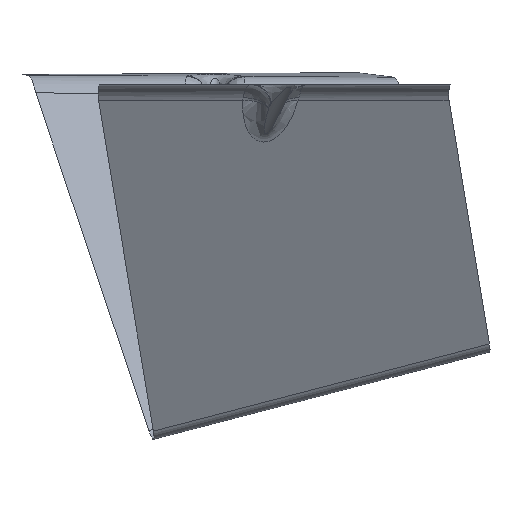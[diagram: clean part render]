
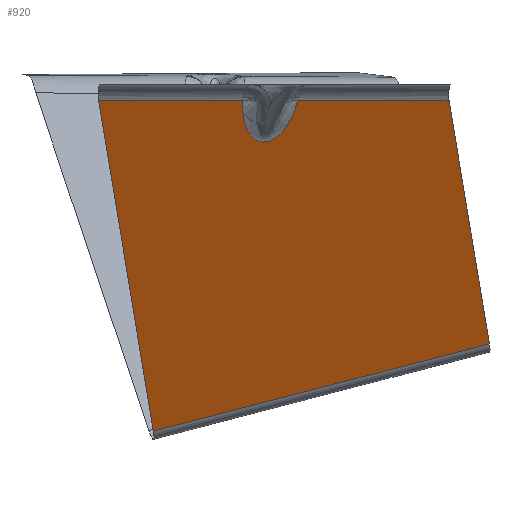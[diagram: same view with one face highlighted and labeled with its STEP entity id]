
A CAD part, left-side view. The second image highlights one B-rep face of the part: STEP entity #920.
In plain terms, the highlighted planar face has unit normal (-0.83, -0.249, -0.5).
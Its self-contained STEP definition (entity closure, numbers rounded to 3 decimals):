
#415=CARTESIAN_POINT('Vertex',(-106.828,9.262,-0.3)) ;
#678=CARTESIAN_POINT('Control Point',(-102.089,-6.537,-0.3)) ;
#679=CARTESIAN_POINT('Control Point',(-101.853,-6.413,-0.752)) ;
#680=CARTESIAN_POINT('Control Point',(-101.621,-6.28,-1.203)) ;
#681=CARTESIAN_POINT('Control Point',(-101.393,-6.136,-1.654)) ;
#682=CARTESIAN_POINT('Control Point',(-100.745,-5.691,-2.95)) ;
#683=CARTESIAN_POINT('Control Point',(-100.131,-5.154,-4.237)) ;
#684=CARTESIAN_POINT('Control Point',(-99.747,-4.761,-5.069)) ;
#685=CARTESIAN_POINT('Control Point',(-99.224,-4.131,-6.249)) ;
#686=CARTESIAN_POINT('Control Point',(-98.755,-3.381,-7.402)) ;
#687=CARTESIAN_POINT('Control Point',(-98.619,-3.143,-7.746)) ;
#688=CARTESIAN_POINT('Control Point',(-98.378,-2.68,-8.376)) ;
#689=CARTESIAN_POINT('Control Point',(-98.162,-2.167,-8.989)) ;
#690=CARTESIAN_POINT('Control Point',(-98.069,-1.919,-9.268)) ;
#691=CARTESIAN_POINT('Control Point',(-97.853,-1.269,-9.949)) ;
#692=CARTESIAN_POINT('Control Point',(-97.691,-0.528,-10.587)) ;
#693=CARTESIAN_POINT('Control Point',(-97.617,-0.045,-10.949)) ;
#694=CARTESIAN_POINT('Control Point',(-97.556,0.775,-11.46)) ;
#695=CARTESIAN_POINT('Control Point',(-97.617,1.718,-11.828)) ;
#696=CARTESIAN_POINT('Control Point',(-97.656,2.067,-11.936)) ;
#697=CARTESIAN_POINT('Control Point',(-97.755,2.643,-12.058)) ;
#698=CARTESIAN_POINT('Control Point',(-97.91,3.225,-12.092)) ;
#699=CARTESIAN_POINT('Control Point',(-97.975,3.443,-12.091)) ;
#700=CARTESIAN_POINT('Control Point',(-98.17,4.015,-12.054)) ;
#701=CARTESIAN_POINT('Control Point',(-98.407,4.55,-11.927)) ;
#702=CARTESIAN_POINT('Control Point',(-98.567,4.863,-11.816)) ;
#703=CARTESIAN_POINT('Control Point',(-99.027,5.661,-11.451)) ;
#704=CARTESIAN_POINT('Control Point',(-99.519,6.297,-10.951)) ;
#705=CARTESIAN_POINT('Control Point',(-99.834,6.648,-10.603)) ;
#706=CARTESIAN_POINT('Control Point',(-100.363,7.168,-9.984)) ;
#707=CARTESIAN_POINT('Control Point',(-100.886,7.586,-9.324)) ;
#708=CARTESIAN_POINT('Control Point',(-101.098,7.742,-9.05)) ;
#709=CARTESIAN_POINT('Control Point',(-101.57,8.062,-8.426)) ;
#710=CARTESIAN_POINT('Control Point',(-102.035,8.325,-7.785)) ;
#711=CARTESIAN_POINT('Control Point',(-102.292,8.455,-7.425)) ;
#712=CARTESIAN_POINT('Control Point',(-103.221,8.88,-6.095)) ;
#713=CARTESIAN_POINT('Control Point',(-104.12,9.134,-4.729)) ;
#714=CARTESIAN_POINT('Control Point',(-104.757,9.249,-3.73)) ;
#715=CARTESIAN_POINT('Control Point',(-105.555,9.32,-2.441)) ;
#716=CARTESIAN_POINT('Control Point',(-106.331,9.299,-1.144)) ;
#717=CARTESIAN_POINT('Control Point',(-106.498,9.291,-0.863)) ;
#718=CARTESIAN_POINT('Control Point',(-106.664,9.278,-0.582)) ;
#719=CARTESIAN_POINT('Control Point',(-106.828,9.262,-0.3)) ;
#720=CARTESIAN_POINT('Vertex',(-102.089,-6.537,-0.3)) ;
#874=CARTESIAN_POINT('Axis2P3D Location',(-47.087,-14.126,-87.772)) ;
#879=CARTESIAN_POINT('Line Origine',(-112.997,29.824,-0.3)) ;
#883=CARTESIAN_POINT('Vertex',(-119.166,50.386,-0.3)) ;
#886=CARTESIAN_POINT('Line Origine',(-88.406,42.566,-47.437)) ;
#890=CARTESIAN_POINT('Vertex',(-57.647,34.745,-94.575)) ;
#893=CARTESIAN_POINT('Line Origine',(-50.767,-13.19,-82.132)) ;
#897=CARTESIAN_POINT('Vertex',(-43.886,-61.126,-69.69)) ;
#900=CARTESIAN_POINT('Line Origine',(-66.526,-55.37,-34.995)) ;
#904=CARTESIAN_POINT('Vertex',(-89.166,-49.614,-0.3)) ;
#907=CARTESIAN_POINT('Line Origine',(-95.627,-28.076,-0.3)) ;
#875=DIRECTION('Axis2P3D Direction',(0.83,0.249,0.5)) ;
#876=DIRECTION('Axis2P3D XDirection',(0.541,-0.138,-0.83)) ;
#880=DIRECTION('Vector Direction',(0.287,-0.958,0.)) ;
#887=DIRECTION('Vector Direction',(0.541,-0.138,-0.83)) ;
#894=DIRECTION('Vector Direction',(0.138,-0.959,0.249)) ;
#901=DIRECTION('Vector Direction',(-0.541,0.138,0.83)) ;
#908=DIRECTION('Vector Direction',(0.287,-0.958,0.)) ;
#877=AXIS2_PLACEMENT_3D('Plane Axis2P3D',#874,#875,#876) ;
#913=ORIENTED_EDGE('',*,*,#722,.T.) ;
#914=ORIENTED_EDGE('',*,*,#885,.F.) ;
#915=ORIENTED_EDGE('',*,*,#892,.T.) ;
#916=ORIENTED_EDGE('',*,*,#899,.T.) ;
#917=ORIENTED_EDGE('',*,*,#906,.T.) ;
#918=ORIENTED_EDGE('',*,*,#911,.F.) ;
#881=VECTOR('Line Direction',#880,1.) ;
#888=VECTOR('Line Direction',#887,1.) ;
#895=VECTOR('Line Direction',#894,1.) ;
#902=VECTOR('Line Direction',#901,1.) ;
#909=VECTOR('Line Direction',#908,1.) ;
#920=ADVANCED_FACE('Extract.1',(#919),#878,.F.) ;
#677=B_SPLINE_CURVE_WITH_KNOTS('',5,(#678,#679,#680,#681,#682,#683,#684,#685,#686,#687,#688,#689,#690,#691,#692,#693,#694,#695,#696,#697,#698,#699,#700,#701,#702,#703,#704,#705,#706,#707,#708,#709,#710,#711,#712,#713,#714,#715,#716,#717,#718,#719),.UNSPECIFIED.,.F.,.U.,(6,3,3,3,3,3,3,3,3,3,3,3,3,6),(29.763,33.241,39.776,42.574,44.972,48.529,50.463,51.626,53.569,57.002,59.362,62.298,70.129,72.295),.UNSPECIFIED.) ;
#722=EDGE_CURVE('',#721,#416,#677,.T.) ;
#885=EDGE_CURVE('',#884,#416,#882,.T.) ;
#892=EDGE_CURVE('',#884,#891,#889,.T.) ;
#899=EDGE_CURVE('',#891,#898,#896,.T.) ;
#906=EDGE_CURVE('',#898,#905,#903,.T.) ;
#911=EDGE_CURVE('',#721,#905,#910,.T.) ;
#912=EDGE_LOOP('',(#913,#914,#915,#916,#917,#918)) ;
#919=FACE_OUTER_BOUND('',#912,.T.) ;
#882=LINE('Line',#879,#881) ;
#889=LINE('Line',#886,#888) ;
#896=LINE('Line',#893,#895) ;
#903=LINE('Line',#900,#902) ;
#910=LINE('Line',#907,#909) ;
#878=PLANE('',#877) ;
#416=VERTEX_POINT('',#415) ;
#721=VERTEX_POINT('',#720) ;
#884=VERTEX_POINT('',#883) ;
#891=VERTEX_POINT('',#890) ;
#898=VERTEX_POINT('',#897) ;
#905=VERTEX_POINT('',#904) ;
